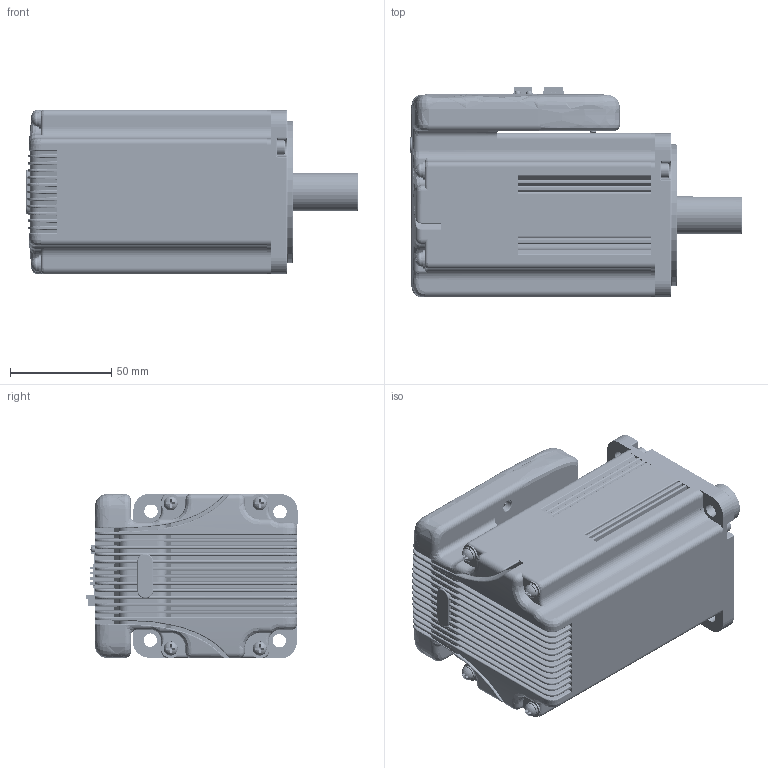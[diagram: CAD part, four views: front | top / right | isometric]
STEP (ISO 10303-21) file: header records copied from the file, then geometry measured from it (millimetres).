
FILE_DESCRIPTION((''),'2;1');
FILE_NAME('80-750W-ALL_ASM','2021-11-16T09:47:27',('chensf'),(''),'CREO PARAMETRIC BY PTC INC, 2019010','CREO PARAMETRIC BY PTC INC, 2019010','');
FILE_SCHEMA(('CONFIG_CONTROL_DESIGN','GEOMETRIC_VALIDATION_PROPERTIES_MIM'));
Products named in the file (50): 80-750W-TOP; 80-750W-BOT; 80-750W-BACK; ZHIJIA; PBZ; 80-750W-BODY_ASM; PCB-01; PCB-02; PRT0004; HEADER_2_0_4X; XB; PB_4P; B04B-ZESK-1D; PHOENIX______2__6; CONNECTOR_5MMCLOSED4PIN_MALE; PAIZHEN; PAIMU; 6-1-5P-900; PCB3; 6P-1-5; 80-750W-PCB-ALL_ASM; ZHAO; GUIJIAO; 80-750W_ASM; M3X8_GB818_9; M4X8_GB818_9; D3_GB9074_26_11; D3_GB9074_24_14; M4X8_GB9074_4_ASM; M3-8-SCREW_ASM; 750W-262900001; CROSS_RECESSED_COUNTERSUN-26875; CROSS_RECESSED_COUNTERSUN-27006; 750W-271630001; 750W23-276070001; CROSS_RECESSED_COUNTERSUN-55427; 750W23-561500001; 750W-570090001; 750W-571620001; 750W23-577580001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
Assembly tree (60 placements, depth 4):
  80-750W-ALL_ASM
    80-750W_ASM
      80-750W-BODY_ASM
        80-750W-TOP
        80-750W-BOT
        80-750W-BACK
        ZHIJIA
        PBZ
      80-750W-PCB-ALL_ASM
        PCB-01
        PCB-02
        PRT0004
        HEADER_2_0_4X
        XB
        PB_4P
        B04B-ZESK-1D  x2
        PHOENIX______2__6
        CONNECTOR_5MMCLOSED4PIN_MALE
        PAIZHEN  x2
        PAIMU  x2
        6-1-5P-900
        PCB3
        6P-1-5
      ZHAO
      GUIJIAO
    M3-8-SCREW_ASM
      M3X8_GB818_9  x6
      M4X8_GB9074_4_ASM  x4
        M4X8_GB818_9
        D3_GB9074_26_11
        D3_GB9074_24_14
    ISV2-8080V48C_ASM
      ISV2-80750W48V0001_ASM
        750W-262900001
        CROSS_RECESSED_COUNTERSUN-26875
        CROSS_RECESSED_COUNTERSUN-27006
        750W-271630001
        750W23-276070001
        CROSS_RECESSED_COUNTERSUN-55427
        750W23-561500001
        750W-570090001
        750W-571620001
        750W23-577580001
        CROSS_RECESSED_COUNTERSUN-85352
        750W-856340001
        _1-SOLID1_10001
        750W-866570001
        750W-875390001
        750W23-876720001
        750W23-878150001
Bounding box: 163.8 x 104.17 x 81.34 mm (x, y, z)
Volume: 404810.3 mm3; surface area: 294293.8 mm2
Topology: 60 solids, 61 shells, 6846 faces, 17615 edges, 10892 vertices
Faces by surface type: plane 3556, cylinder 1672, cone 699, torus 319, bspline 217, sphere 204, extrusion 151, revolution 28
Entity records: 277368 total; most frequent: CARTESIAN_POINT 61296, ORIENTED_EDGE 30924, DIRECTION 29969, PRESENTATION_STYLE_ASSIGNMENT 15734, EDGE_CURVE 15462, STYLED_ITEM 13944, CURVE_STYLE 12715, AXIS2_PLACEMENT_3D 10166
